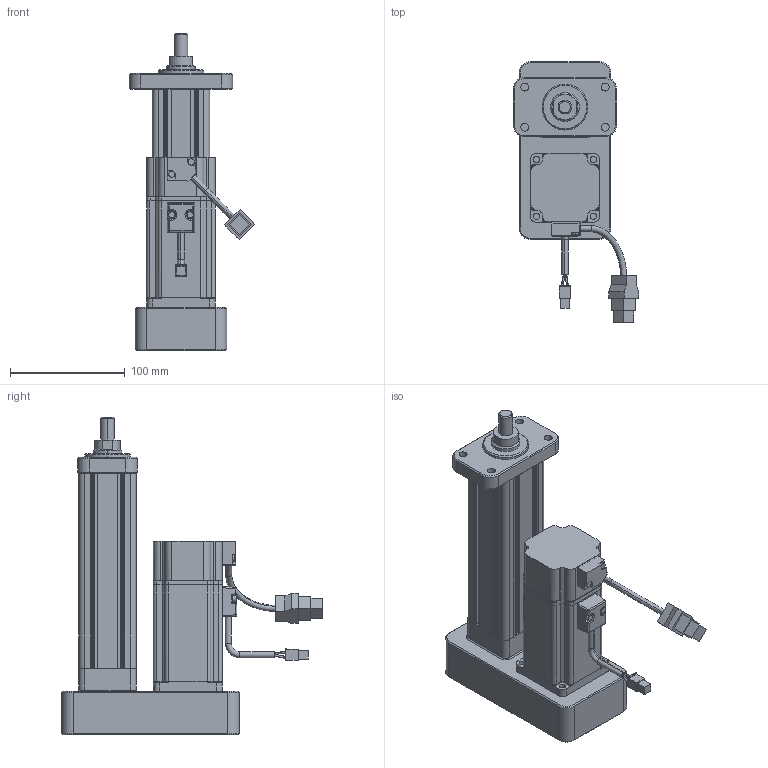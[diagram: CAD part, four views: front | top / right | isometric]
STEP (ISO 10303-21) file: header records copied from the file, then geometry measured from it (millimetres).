
FILE_DESCRIPTION (( 'STEP AP203' ), '1' );
FILE_NAME ('S1殏殿ヶ楊擘假蚾.STEP', '2024-05-27T05:03:56', ( '' ), ( '' ), 'SwSTEP 2.0', 'SolidWorks 2018', '' );
FILE_SCHEMA (( 'CONFIG_CONTROL_DESIGN' ));
Length unit declared in the file: millimetre
Products named in the file (3): S1殏殿ヶ楊擘假蚾; EC; S1殏殿ヶ楊擘
Assembly tree (2 placements, depth 2):
  S1殏殿ヶ楊擘假蚾
    S1殏殿ヶ楊擘
    EC
Bounding box: 109.24 x 227.37 x 277 mm (x, y, z)
Volume: 1196824.2 mm3; surface area: 197559.1 mm2
Topology: 2 solids, 9 shells, 666 faces, 1630 edges, 1004 vertices
Faces by surface type: plane 347, cylinder 232, cone 58, bspline 11, torus 10, sphere 8
Entity records: 21121 total; most frequent: CARTESIAN_POINT 5289, ORIENTED_EDGE 3256, DIRECTION 3173, EDGE_CURVE 1628, AXIS2_PLACEMENT_3D 1084, VECTOR 1005, LINE 1005, VERTEX_POINT 1004
